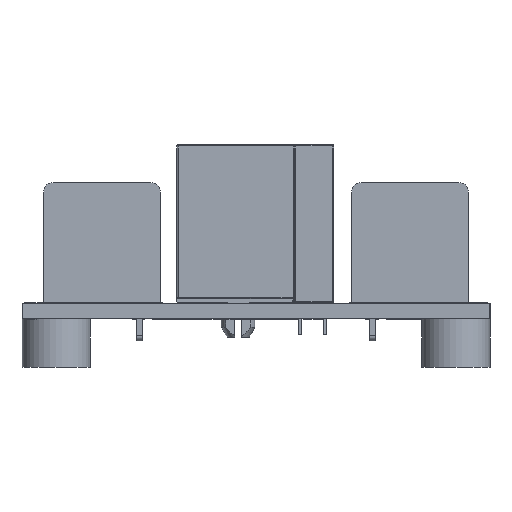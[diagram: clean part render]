
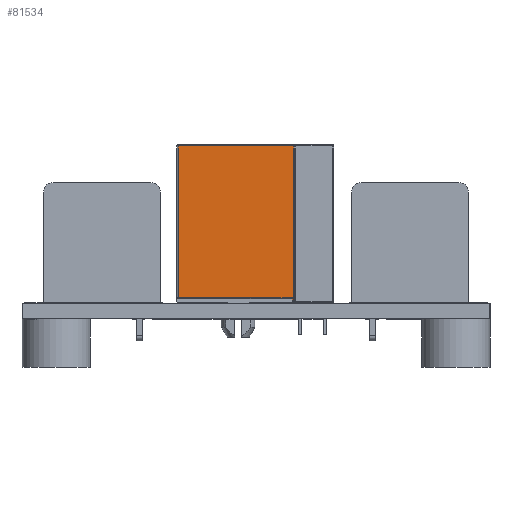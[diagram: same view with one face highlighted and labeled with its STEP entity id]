
A CAD part, left-side view. The second image highlights one B-rep face of the part: STEP entity #81534.
In plain terms, the highlighted planar face has unit normal (-1, 0, 0) as drawn and (1, 0, 0) by its records, which use the part's own axes.
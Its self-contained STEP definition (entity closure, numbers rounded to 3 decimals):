
#78445 = EDGE_CURVE('',#78446,#78448,#78450,.T.);
#78446 = VERTEX_POINT('',#78447);
#78447 = CARTESIAN_POINT('',(7.7,8.,3.775));
#78448 = VERTEX_POINT('',#78449);
#78449 = CARTESIAN_POINT('',(7.7,8.,3.945));
#78450 = LINE('',#78451,#78452);
#78451 = CARTESIAN_POINT('',(7.7,8.,-8.05));
#78452 = VECTOR('',#78453,1.);
#78453 = DIRECTION('',(0.,0.,1.));
#81534 = ADVANCED_FACE('',(#81535),#81576,.F.);
#81535 = FACE_BOUND('',#81536,.T.);
#81536 = EDGE_LOOP('',(#81537,#81547,#81555,#81561,#81562,#81570));
#81537 = ORIENTED_EDGE('',*,*,#81538,.T.);
#81538 = EDGE_CURVE('',#81539,#81541,#81543,.T.);
#81539 = VERTEX_POINT('',#81540);
#81540 = CARTESIAN_POINT('',(7.7,-7.95,-7.9));
#81541 = VERTEX_POINT('',#81542);
#81542 = CARTESIAN_POINT('',(7.7,7.6,-7.9));
#81543 = LINE('',#81544,#81545);
#81544 = CARTESIAN_POINT('',(7.7,-8.1,-7.9));
#81545 = VECTOR('',#81546,1.);
#81546 = DIRECTION('',(0.,1.,0.));
#81547 = ORIENTED_EDGE('',*,*,#81548,.T.);
#81548 = EDGE_CURVE('',#81541,#81549,#81551,.T.);
#81549 = VERTEX_POINT('',#81550);
#81550 = CARTESIAN_POINT('',(7.7,7.6,3.775));
#81551 = LINE('',#81552,#81553);
#81552 = CARTESIAN_POINT('',(7.7,7.6,-8.05));
#81553 = VECTOR('',#81554,1.);
#81554 = DIRECTION('',(0.,0.,1.));
#81555 = ORIENTED_EDGE('',*,*,#81556,.T.);
#81556 = EDGE_CURVE('',#81549,#78446,#81557,.T.);
#81557 = LINE('',#81558,#81559);
#81558 = CARTESIAN_POINT('',(7.7,7.7,3.775));
#81559 = VECTOR('',#81560,1.);
#81560 = DIRECTION('',(0.,1.,0.));
#81561 = ORIENTED_EDGE('',*,*,#78445,.T.);
#81562 = ORIENTED_EDGE('',*,*,#81563,.F.);
#81563 = EDGE_CURVE('',#81564,#78448,#81566,.T.);
#81564 = VERTEX_POINT('',#81565);
#81565 = CARTESIAN_POINT('',(7.7,-7.95,3.945));
#81566 = LINE('',#81567,#81568);
#81567 = CARTESIAN_POINT('',(7.7,-8.1,3.945));
#81568 = VECTOR('',#81569,1.);
#81569 = DIRECTION('',(0.,1.,0.));
#81570 = ORIENTED_EDGE('',*,*,#81571,.F.);
#81571 = EDGE_CURVE('',#81539,#81564,#81572,.T.);
#81572 = LINE('',#81573,#81574);
#81573 = CARTESIAN_POINT('',(7.7,-7.95,-8.05));
#81574 = VECTOR('',#81575,1.);
#81575 = DIRECTION('',(0.,0.,1.));
#81576 = PLANE('',#81577);
#81577 = AXIS2_PLACEMENT_3D('',#81578,#81579,#81580);
#81578 = CARTESIAN_POINT('',(7.7,-8.1,-8.05));
#81579 = DIRECTION('',(-1.,0.,0.));
#81580 = DIRECTION('',(0.,0.,1.));
